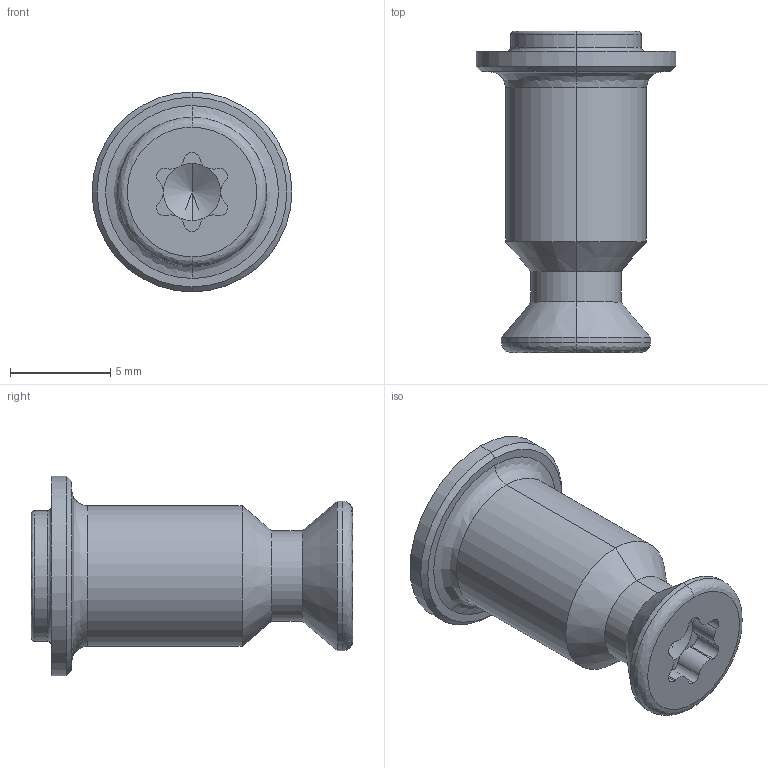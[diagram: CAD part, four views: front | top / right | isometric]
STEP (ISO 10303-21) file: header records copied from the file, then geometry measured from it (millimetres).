
FILE_DESCRIPTION (( 'STEP AP203' ), '1' );
FILE_NAME ('QS022-IF-M6.STEP', '2017-06-07T06:46:35', ( '' ), ( '' ), 'SwSTEP 2.0', 'SolidWorks 2017', '' );
FILE_SCHEMA (( 'CONFIG_CONTROL_DESIGN' ));
Length unit declared in the file: millimetre
Products named in the file (1): QS022-IF-M6
Bounding box: 9.95 x 16 x 9.95 mm (x, y, z)
Volume: 353.8 mm3; surface area: 683.3 mm2
Topology: 1 solids, 1 shells, 59 faces, 137 edges, 80 vertices
Faces by surface type: cylinder 29, cone 12, plane 10, bspline 8
Entity records: 1934 total; most frequent: CARTESIAN_POINT 521, DIRECTION 313, ORIENTED_EDGE 266, AXIS2_PLACEMENT_3D 136, EDGE_CURVE 133, CIRCLE 84, VERTEX_POINT 80, EDGE_LOOP 63
